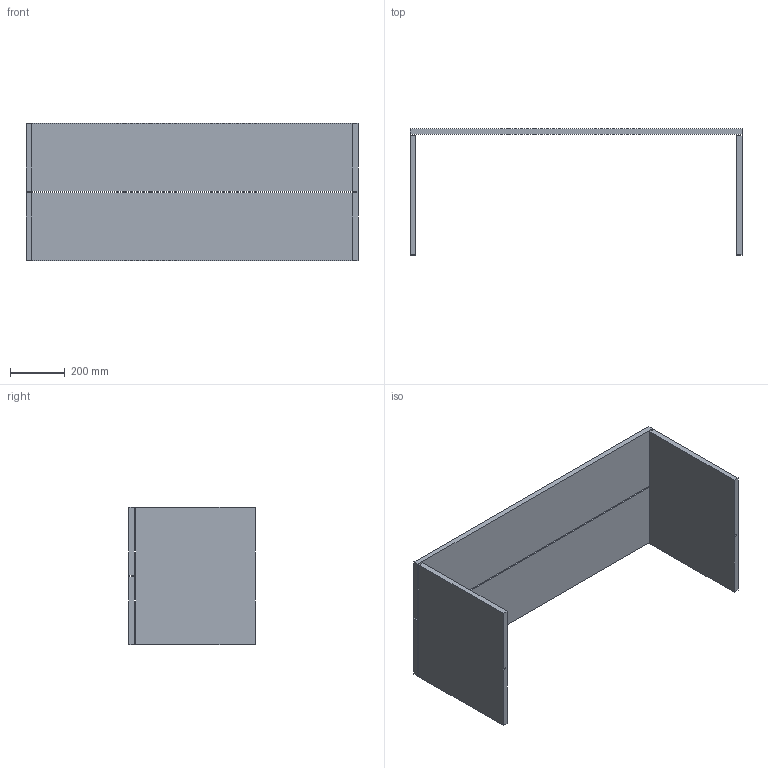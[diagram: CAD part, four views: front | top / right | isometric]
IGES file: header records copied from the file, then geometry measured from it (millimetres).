
Start section: START RECORD GO HERE.
Global section: file name: 2068_2069_3D.igs; native system: DASSAULT SYSTEMES CATIA V5 R19 - www.3ds.com; preprocessor: CATIA Version 5 Release 19 SP 5 ; author: gioge; organization: LAPTOP-G94B6G74; date: 20201024.085501; units: millimetre
Bounding box: 1210 x 460 x 500 mm (x, y, z)
Surface area: 2259300 mm2 (no closed solid volume)
Topology: 0 solids, 0 shells, 32 faces, 144 edges, 144 vertices
Faces by surface type: plane 32
